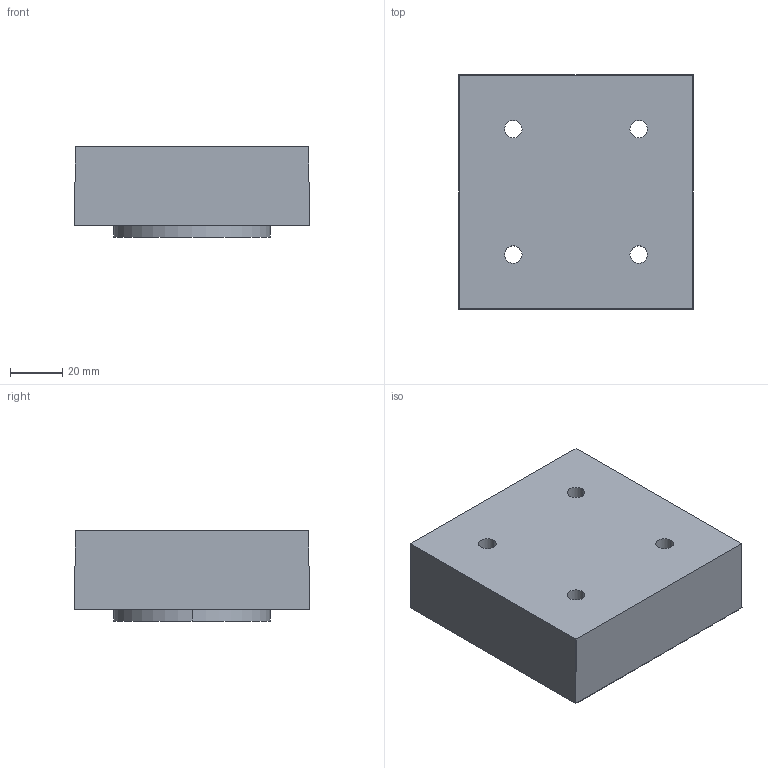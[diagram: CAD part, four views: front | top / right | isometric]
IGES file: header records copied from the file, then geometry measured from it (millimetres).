
Start section: Data from XPlus IGES,  Spatial Corp. Copyright (c) 1999-2004
Global section: file name: 9243047.igs; native system:  By Spatial Corp.; preprocessor: XPlus ACIS/IGES 3.0; author: Noname; organization: Noname; date: 20180220.171752; units: millimetre
Bounding box: 89.82 x 89.82 x 34.5 mm (x, y, z)
Surface area: 40338.4 mm2 (no closed solid volume)
Topology: 0 solids, 0 shells, 25 faces, 120 edges, 120 vertices
Faces by surface type: extrusion 13, revolution 12
